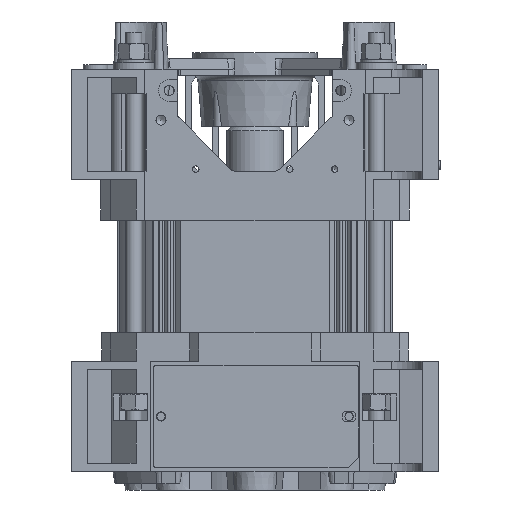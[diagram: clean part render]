
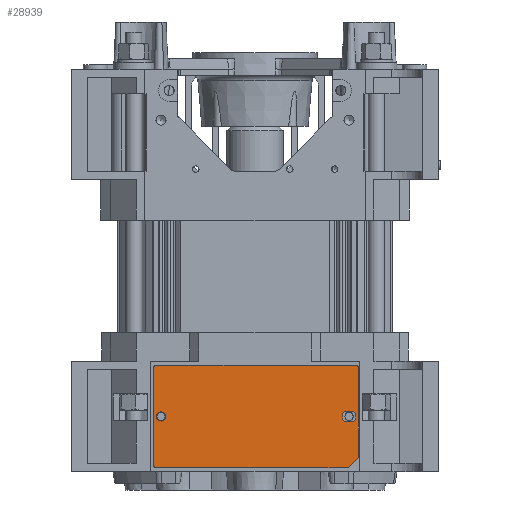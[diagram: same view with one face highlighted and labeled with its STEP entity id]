
A CAD part, left-side view. The second image highlights one B-rep face of the part: STEP entity #28939.
In plain terms, the highlighted planar face has unit normal (-1, 0, 0) as drawn and (0, 0, -1) by its records, which use the part's own axes.
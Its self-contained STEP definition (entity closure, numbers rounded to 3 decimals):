
#3432=LINE('',#50569,#6072);
#3436=LINE('',#50579,#6076);
#3441=LINE('',#50597,#6081);
#3445=LINE('',#50609,#6085);
#3449=LINE('',#50621,#6089);
#3452=LINE('',#50627,#6092);
#3454=LINE('',#50630,#6094);
#6072=VECTOR('',#40176,1.);
#6076=VECTOR('',#40188,1.);
#6081=VECTOR('',#40207,1.);
#6085=VECTOR('',#40219,1.);
#6089=VECTOR('',#40231,1.);
#6092=VECTOR('',#40236,1.);
#6094=VECTOR('',#40240,1.);
#6993=PLANE('',#31885);
#7207=FACE_BOUND('',#10386,.T.);
#7208=FACE_BOUND('',#10387,.T.);
#8686=FACE_OUTER_BOUND('',#10385,.T.);
#10385=EDGE_LOOP('',(#27081,#27082,#27083,#27084,#27085,#27086,#27087,#27088));
#10386=EDGE_LOOP('',(#27089,#27090,#27091,#27092));
#10387=EDGE_LOOP('',(#27093,#27094));
#11609=CIRCLE('',#31858,2.25);
#11611=CIRCLE('',#31861,3.25);
#11613=CIRCLE('',#31865,3.25);
#11614=CIRCLE('',#31868,2.25);
#11617=CIRCLE('',#31872,1.);
#11619=CIRCLE('',#31876,1.);
#11621=CIRCLE('',#31880,1.);
#14424=VERTEX_POINT('',#50549);
#14426=VERTEX_POINT('',#50553);
#14429=VERTEX_POINT('',#50560);
#14430=VERTEX_POINT('',#50562);
#14432=VERTEX_POINT('',#50568);
#14434=VERTEX_POINT('',#50574);
#14437=VERTEX_POINT('',#50587);
#14438=VERTEX_POINT('',#50589);
#14440=VERTEX_POINT('',#50595);
#14442=VERTEX_POINT('',#50601);
#14444=VERTEX_POINT('',#50607);
#14446=VERTEX_POINT('',#50613);
#14448=VERTEX_POINT('',#50619);
#14450=VERTEX_POINT('',#50625);
#18632=EDGE_CURVE('',#14424,#14426,#11609,.T.);
#18635=EDGE_CURVE('',#14430,#14429,#11611,.T.);
#18638=EDGE_CURVE('',#14432,#14430,#3432,.T.);
#18641=EDGE_CURVE('',#14434,#14432,#11613,.T.);
#18644=EDGE_CURVE('',#14429,#14434,#3436,.T.);
#18645=EDGE_CURVE('',#14426,#14424,#11614,.T.);
#18649=EDGE_CURVE('',#14438,#14437,#11617,.T.);
#18653=EDGE_CURVE('',#14437,#14440,#3441,.T.);
#18656=EDGE_CURVE('',#14440,#14442,#11619,.T.);
#18659=EDGE_CURVE('',#14442,#14444,#3445,.T.);
#18662=EDGE_CURVE('',#14444,#14446,#11621,.T.);
#18665=EDGE_CURVE('',#14446,#14448,#3449,.T.);
#18668=EDGE_CURVE('',#14448,#14450,#3452,.T.);
#18670=EDGE_CURVE('',#14450,#14438,#3454,.T.);
#27081=ORIENTED_EDGE('',*,*,#18670,.T.);
#27082=ORIENTED_EDGE('',*,*,#18649,.T.);
#27083=ORIENTED_EDGE('',*,*,#18653,.T.);
#27084=ORIENTED_EDGE('',*,*,#18656,.T.);
#27085=ORIENTED_EDGE('',*,*,#18659,.T.);
#27086=ORIENTED_EDGE('',*,*,#18662,.T.);
#27087=ORIENTED_EDGE('',*,*,#18665,.T.);
#27088=ORIENTED_EDGE('',*,*,#18668,.T.);
#27089=ORIENTED_EDGE('',*,*,#18635,.T.);
#27090=ORIENTED_EDGE('',*,*,#18644,.T.);
#27091=ORIENTED_EDGE('',*,*,#18641,.T.);
#27092=ORIENTED_EDGE('',*,*,#18638,.T.);
#27093=ORIENTED_EDGE('',*,*,#18645,.T.);
#27094=ORIENTED_EDGE('',*,*,#18632,.T.);
#28939=ADVANCED_FACE('',(#8686,#7207,#7208),#6993,.F.);
#31858=AXIS2_PLACEMENT_3D('',#50555,#40163,#40164);
#31861=AXIS2_PLACEMENT_3D('',#50563,#40170,#40171);
#31865=AXIS2_PLACEMENT_3D('',#50575,#40182,#40183);
#31868=AXIS2_PLACEMENT_3D('',#50581,#40191,#40192);
#31872=AXIS2_PLACEMENT_3D('',#50590,#40200,#40201);
#31876=AXIS2_PLACEMENT_3D('',#50603,#40213,#40214);
#31880=AXIS2_PLACEMENT_3D('',#50615,#40225,#40226);
#31885=AXIS2_PLACEMENT_3D('',#50632,#40243,#40244);
#40163=DIRECTION('center_axis',(0.,0.,1.));
#40164=DIRECTION('ref_axis',(-1.,0.,0.));
#40170=DIRECTION('center_axis',(0.,0.,1.));
#40171=DIRECTION('ref_axis',(-0.722,0.692,0.));
#40176=DIRECTION('',(1.,0.,0.));
#40182=DIRECTION('center_axis',(0.,0.,1.));
#40183=DIRECTION('ref_axis',(0.722,-0.692,0.));
#40188=DIRECTION('',(-1.,0.,0.));
#40191=DIRECTION('center_axis',(0.,0.,1.));
#40192=DIRECTION('ref_axis',(-1.,0.,0.));
#40200=DIRECTION('center_axis',(0.,0.,-1.));
#40201=DIRECTION('ref_axis',(0.,1.,0.));
#40207=DIRECTION('',(-1.,0.,0.));
#40213=DIRECTION('center_axis',(0.,0.,-1.));
#40214=DIRECTION('ref_axis',(1.,0.,0.));
#40219=DIRECTION('',(0.,1.,0.));
#40225=DIRECTION('center_axis',(0.,0.,-1.));
#40226=DIRECTION('ref_axis',(0.,-1.,0.));
#40231=DIRECTION('',(1.,0.,0.));
#40236=DIRECTION('',(0.707,-0.707,0.));
#40240=DIRECTION('',(0.,-1.,0.));
#40243=DIRECTION('center_axis',(0.,0.,1.));
#40244=DIRECTION('ref_axis',(1.,0.,0.));
#50549=CARTESIAN_POINT('',(15836.624,-1887.647,0.));
#50553=CARTESIAN_POINT('',(15841.124,-1887.647,0.));
#50555=CARTESIAN_POINT('Origin',(15838.874,-1887.647,0.));
#50560=CARTESIAN_POINT('',(15933.219,-1885.397,0.));
#50562=CARTESIAN_POINT('',(15933.219,-1889.897,0.));
#50563=CARTESIAN_POINT('Origin',(15930.874,-1887.647,0.));
#50568=CARTESIAN_POINT('',(15928.529,-1889.897,0.));
#50569=CARTESIAN_POINT('',(15928.529,-1889.897,0.));
#50574=CARTESIAN_POINT('',(15928.529,-1885.397,0.));
#50575=CARTESIAN_POINT('Origin',(15930.874,-1887.647,0.));
#50579=CARTESIAN_POINT('',(15933.219,-1885.397,0.));
#50581=CARTESIAN_POINT('Origin',(15838.874,-1887.647,0.));
#50587=CARTESIAN_POINT('',(15934.374,-1912.647,0.));
#50589=CARTESIAN_POINT('',(15935.374,-1911.647,0.));
#50590=CARTESIAN_POINT('Origin',(15934.374,-1911.647,0.));
#50595=CARTESIAN_POINT('',(15836.374,-1912.647,0.));
#50597=CARTESIAN_POINT('',(15934.374,-1912.647,0.));
#50601=CARTESIAN_POINT('',(15835.374,-1911.647,0.));
#50603=CARTESIAN_POINT('Origin',(15836.374,-1911.647,0.));
#50607=CARTESIAN_POINT('',(15835.374,-1863.647,0.));
#50609=CARTESIAN_POINT('',(15835.374,-1911.647,0.));
#50613=CARTESIAN_POINT('',(15836.374,-1862.647,0.));
#50615=CARTESIAN_POINT('Origin',(15836.374,-1863.647,0.));
#50619=CARTESIAN_POINT('',(15930.374,-1862.647,0.));
#50621=CARTESIAN_POINT('',(15836.374,-1862.647,0.));
#50625=CARTESIAN_POINT('',(15935.374,-1867.647,0.));
#50627=CARTESIAN_POINT('',(15930.374,-1862.647,0.));
#50630=CARTESIAN_POINT('',(15935.374,-1867.647,0.));
#50632=CARTESIAN_POINT('Origin',(15830.374,-1915.147,0.));
